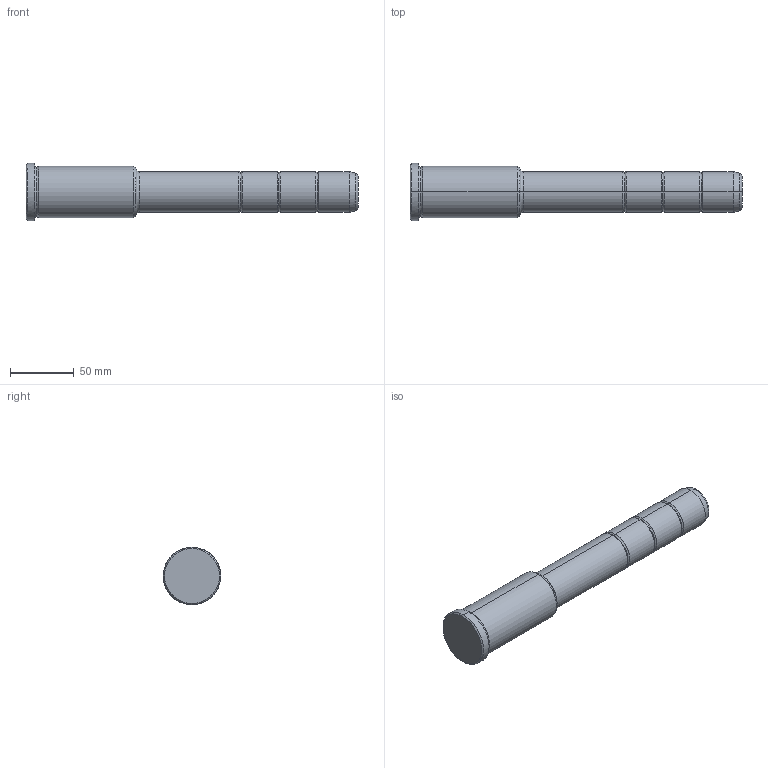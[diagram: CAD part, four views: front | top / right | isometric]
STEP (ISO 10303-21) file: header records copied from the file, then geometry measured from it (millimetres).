
FILE_DESCRIPTION(('CATIA V5 STEP Exchange'),'2;1');
FILE_NAME('C:\Users\Utente\Desktop\IO LAVORO\3D X SITO CF\X SITO\PLASTICA\351\351-32X86X260.stp','2021-09-10T12:24:04+00:00',('none'),('none'),'CATIA Version 5 Release 20 GA (IN-10)','CATIA V5 STEP AP203','none');
FILE_SCHEMA(('CONFIG_CONTROL_DESIGN'));
Length unit declared in the file: millimetre
Products named in the file (1): 351-32X86X260
Bounding box: 260 x 45 x 45 mm (x, y, z)
Volume: 248999.3 mm3; surface area: 31214.8 mm2
Topology: 1 solids, 1 shells, 42 faces, 118 edges, 80 vertices
Faces by surface type: torus 20, cylinder 12, cone 6, plane 4
Entity records: 1472 total; most frequent: CARTESIAN_POINT 353, ORIENTED_EDGE 236, DIRECTION 194, AXIS2_PLACEMENT_3D 135, EDGE_CURVE 118, CIRCLE 92, VERTEX_POINT 80, EDGE_LOOP 44
